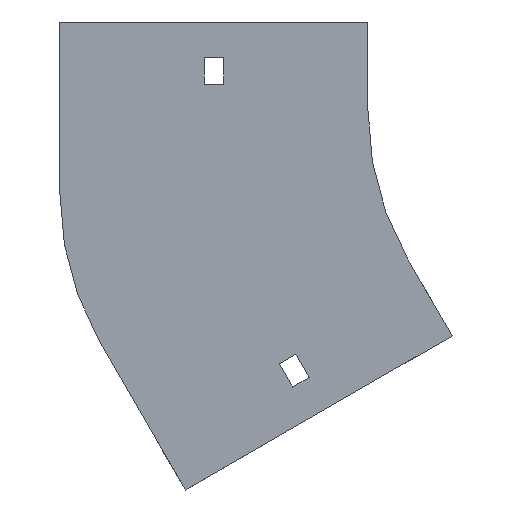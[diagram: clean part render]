
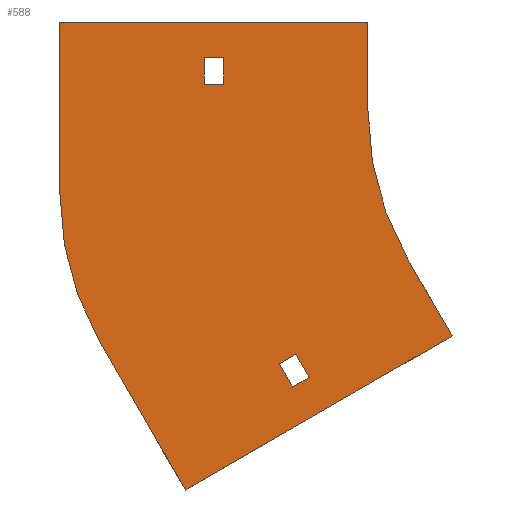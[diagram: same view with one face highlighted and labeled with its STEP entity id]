
A CAD part, front view. The second image highlights one B-rep face of the part: STEP entity #588.
In plain terms, the highlighted planar face has unit normal (0, -1, 0).
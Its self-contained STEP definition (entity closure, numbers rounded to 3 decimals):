
#7 = ORIENTED_EDGE ( 'NONE', *, *, #935, .F. ) ;
#13 = CARTESIAN_POINT ( 'NONE',  ( -71.603, 0., -75.981 ) ) ;
#17 = DIRECTION ( 'NONE',  ( 0.5, 0., -0.866 ) ) ;
#24 = LINE ( 'NONE', #1214, #549 ) ;
#43 = VECTOR ( 'NONE', #1126, 1000. ) ;
#48 = VERTEX_POINT ( 'NONE', #52 ) ;
#52 = CARTESIAN_POINT ( 'NONE',  ( -119.821, 0., -89.963 ) ) ;
#77 = DIRECTION ( 'NONE',  ( -0.5, 0., 0.866 ) ) ;
#81 = DIRECTION ( 'NONE',  ( -0.866, 0., -0.5 ) ) ;
#113 = PLANE ( 'NONE',  #397 ) ;
#126 = LINE ( 'NONE', #991, #472 ) ;
#138 = DIRECTION ( 'NONE',  ( 1., 0., 0. ) ) ;
#148 = CARTESIAN_POINT ( 'NONE',  ( -148.75, 0., 18. ) ) ;
#161 = DIRECTION ( 'NONE',  ( 0., 0., 1. ) ) ;
#171 = DIRECTION ( 'NONE',  ( 0., -1., 0. ) ) ;
#176 = DIRECTION ( 'NONE',  ( 0., 0., 1. ) ) ;
#185 = VERTEX_POINT ( 'NONE', #532 ) ;
#199 = EDGE_CURVE ( 'NONE', #449, #241, #200, .T. ) ;
#200 = LINE ( 'NONE', #641, #1122 ) ;
#211 = ORIENTED_EDGE ( 'NONE', *, *, #199, .F. ) ;
#212 = DIRECTION ( 'NONE',  ( -0.866, 0., -0.5 ) ) ;
#220 = AXIS2_PLACEMENT_3D ( 'NONE', #948, #747, #176 ) ;
#222 = VERTEX_POINT ( 'NONE', #863 ) ;
#241 = VERTEX_POINT ( 'NONE', #772 ) ;
#245 = CARTESIAN_POINT ( 'NONE',  ( -148.75, 0., 9. ) ) ;
#247 = VECTOR ( 'NONE', #212, 1000. ) ;
#248 = FACE_OUTER_BOUND ( 'NONE', #1011, .T. ) ;
#258 = LINE ( 'NONE', #264, #418 ) ;
#264 = CARTESIAN_POINT ( 'NONE',  ( -155.25, 0., 18. ) ) ;
#266 = EDGE_CURVE ( 'NONE', #799, #1180, #126, .T. ) ;
#271 = VERTEX_POINT ( 'NONE', #1084 ) ;
#285 = CARTESIAN_POINT ( 'NONE',  ( 0., 0., 0. ) ) ;
#292 = EDGE_CURVE ( 'NONE', #534, #222, #370, .T. ) ;
#297 = EDGE_CURVE ( 'NONE', #271, #640, #258, .T. ) ;
#314 = EDGE_CURVE ( 'NONE', #1180, #48, #1138, .T. ) ;
#321 = DIRECTION ( 'NONE',  ( -0.5, 0., 0.866 ) ) ;
#346 = DIRECTION ( 'NONE',  ( 0., 0., 1. ) ) ;
#358 = EDGE_CURVE ( 'NONE', #378, #271, #491, .T. ) ;
#360 = ORIENTED_EDGE ( 'NONE', *, *, #406, .F. ) ;
#370 = LINE ( 'NONE', #376, #828 ) ;
#373 = DIRECTION ( 'NONE',  ( 0., 0., -1. ) ) ;
#376 = CARTESIAN_POINT ( 'NONE',  ( -100., 0., 30. ) ) ;
#378 = VERTEX_POINT ( 'NONE', #610 ) ;
#385 = DIRECTION ( 'NONE',  ( -1., 0., 0. ) ) ;
#389 = CARTESIAN_POINT ( 'NONE',  ( -161.669, 0., -127.981 ) ) ;
#391 = EDGE_CURVE ( 'NONE', #546, #449, #1263, .T. ) ;
#397 = AXIS2_PLACEMENT_3D ( 'NONE', #1091, #1224, #1330 ) ;
#406 = EDGE_CURVE ( 'NONE', #241, #998, #1190, .T. ) ;
#407 = CARTESIAN_POINT ( 'NONE',  ( -71.603, 0., -75.981 ) ) ;
#418 = VECTOR ( 'NONE', #1231, 1000. ) ;
#427 = CARTESIAN_POINT ( 'NONE',  ( -129.95, 0., -85.419 ) ) ;
#449 = VERTEX_POINT ( 'NONE', #389 ) ;
#450 = ORIENTED_EDGE ( 'NONE', *, *, #358, .T. ) ;
#472 = VECTOR ( 'NONE', #17, 1000. ) ;
#485 = CARTESIAN_POINT ( 'NONE',  ( -155.25, 0., 9. ) ) ;
#491 = LINE ( 'NONE', #485, #1029 ) ;
#498 = EDGE_CURVE ( 'NONE', #1134, #799, #644, .T. ) ;
#532 = CARTESIAN_POINT ( 'NONE',  ( -148.75, 0., 9. ) ) ;
#534 = VERTEX_POINT ( 'NONE', #857 ) ;
#535 = CARTESIAN_POINT ( 'NONE',  ( -124.321, 0., -82.169 ) ) ;
#546 = VERTEX_POINT ( 'NONE', #13 ) ;
#549 = VECTOR ( 'NONE', #138, 1000. ) ;
#557 = ORIENTED_EDGE ( 'NONE', *, *, #292, .F. ) ;
#587 = AXIS2_PLACEMENT_3D ( 'NONE', #285, #171, #373 ) ;
#588 = ADVANCED_FACE ( 'NONE', ( #895, #248, #1336 ), #113, .T. ) ;
#595 = CARTESIAN_POINT ( 'NONE',  ( -155.25, 0., 9. ) ) ;
#610 = CARTESIAN_POINT ( 'NONE',  ( -155.25, 0., 9. ) ) ;
#621 = CARTESIAN_POINT ( 'NONE',  ( -125.45, 0., -93.213 ) ) ;
#640 = VERTEX_POINT ( 'NONE', #148 ) ;
#641 = CARTESIAN_POINT ( 'NONE',  ( -161.669, 0., -127.981 ) ) ;
#644 = LINE ( 'NONE', #427, #247 ) ;
#659 = CARTESIAN_POINT ( 'NONE',  ( -204., 0., 30. ) ) ;
#660 = EDGE_CURVE ( 'NONE', #222, #1154, #901, .T. ) ;
#679 = ORIENTED_EDGE ( 'NONE', *, *, #660, .F. ) ;
#689 = CARTESIAN_POINT ( 'NONE',  ( -125.45, 0., -93.213 ) ) ;
#693 = EDGE_LOOP ( 'NONE', ( #861, #1317, #753, #1123 ) ) ;
#712 = EDGE_CURVE ( 'NONE', #185, #378, #934, .T. ) ;
#747 = DIRECTION ( 'NONE',  ( 0., 1., 0. ) ) ;
#753 = ORIENTED_EDGE ( 'NONE', *, *, #498, .F. ) ;
#772 = CARTESIAN_POINT ( 'NONE',  ( -190.603, 0., -77.867 ) ) ;
#775 = VECTOR ( 'NONE', #346, 1000. ) ;
#799 = VERTEX_POINT ( 'NONE', #971 ) ;
#828 = VECTOR ( 'NONE', #1249, 1000. ) ;
#857 = CARTESIAN_POINT ( 'NONE',  ( -100., 0., 30. ) ) ;
#861 = ORIENTED_EDGE ( 'NONE', *, *, #314, .F. ) ;
#863 = CARTESIAN_POINT ( 'NONE',  ( -100., 0., 0. ) ) ;
#865 = LINE ( 'NONE', #1291, #927 ) ;
#873 = ORIENTED_EDGE ( 'NONE', *, *, #712, .T. ) ;
#888 = EDGE_CURVE ( 'NONE', #640, #185, #1278, .T. ) ;
#895 = FACE_BOUND ( 'NONE', #1097, .T. ) ;
#897 = EDGE_CURVE ( 'NONE', #1154, #546, #902, .T. ) ;
#901 = CIRCLE ( 'NONE', #587, 100. ) ;
#902 = LINE ( 'NONE', #1335, #950 ) ;
#927 = VECTOR ( 'NONE', #321, 1000. ) ;
#934 = LINE ( 'NONE', #595, #1262 ) ;
#935 = EDGE_CURVE ( 'NONE', #987, #534, #24, .T. ) ;
#948 = CARTESIAN_POINT ( 'NONE',  ( -104., 0., -27.867 ) ) ;
#950 = VECTOR ( 'NONE', #1222, 1000. ) ;
#971 = CARTESIAN_POINT ( 'NONE',  ( -129.95, 0., -85.419 ) ) ;
#972 = VECTOR ( 'NONE', #1327, 1000. ) ;
#985 = CARTESIAN_POINT ( 'NONE',  ( -204., 0., -27.867 ) ) ;
#987 = VERTEX_POINT ( 'NONE', #659 ) ;
#990 = EDGE_CURVE ( 'NONE', #998, #987, #1089, .T. ) ;
#991 = CARTESIAN_POINT ( 'NONE',  ( -129.95, 0., -85.419 ) ) ;
#998 = VERTEX_POINT ( 'NONE', #1206 ) ;
#1011 = EDGE_LOOP ( 'NONE', ( #7, #1337, #360, #211, #1295, #1395, #679, #557 ) ) ;
#1029 = VECTOR ( 'NONE', #161, 1000. ) ;
#1084 = CARTESIAN_POINT ( 'NONE',  ( -155.25, 0., 18. ) ) ;
#1089 = LINE ( 'NONE', #985, #775 ) ;
#1091 = CARTESIAN_POINT ( 'NONE',  ( 0., 0., 0. ) ) ;
#1097 = EDGE_LOOP ( 'NONE', ( #450, #1355, #1226, #873 ) ) ;
#1103 = VECTOR ( 'NONE', #81, 1000. ) ;
#1122 = VECTOR ( 'NONE', #77, 1000. ) ;
#1123 = ORIENTED_EDGE ( 'NONE', *, *, #1140, .F. ) ;
#1126 = DIRECTION ( 'NONE',  ( 0.866, 0., 0.5 ) ) ;
#1134 = VERTEX_POINT ( 'NONE', #535 ) ;
#1138 = LINE ( 'NONE', #689, #43 ) ;
#1140 = EDGE_CURVE ( 'NONE', #48, #1134, #865, .T. ) ;
#1154 = VERTEX_POINT ( 'NONE', #1285 ) ;
#1180 = VERTEX_POINT ( 'NONE', #621 ) ;
#1190 = CIRCLE ( 'NONE', #220, 100. ) ;
#1206 = CARTESIAN_POINT ( 'NONE',  ( -204., 0., -27.867 ) ) ;
#1214 = CARTESIAN_POINT ( 'NONE',  ( -204., 0., 30. ) ) ;
#1222 = DIRECTION ( 'NONE',  ( 0.5, 0., -0.866 ) ) ;
#1224 = DIRECTION ( 'NONE',  ( 0., -1., 0. ) ) ;
#1226 = ORIENTED_EDGE ( 'NONE', *, *, #888, .T. ) ;
#1231 = DIRECTION ( 'NONE',  ( 1., 0., 0. ) ) ;
#1249 = DIRECTION ( 'NONE',  ( 0., 0., -1. ) ) ;
#1262 = VECTOR ( 'NONE', #385, 1000. ) ;
#1263 = LINE ( 'NONE', #407, #1103 ) ;
#1278 = LINE ( 'NONE', #245, #972 ) ;
#1285 = CARTESIAN_POINT ( 'NONE',  ( -86.603, 0., -50. ) ) ;
#1291 = CARTESIAN_POINT ( 'NONE',  ( -124.321, 0., -82.169 ) ) ;
#1295 = ORIENTED_EDGE ( 'NONE', *, *, #391, .F. ) ;
#1317 = ORIENTED_EDGE ( 'NONE', *, *, #266, .F. ) ;
#1327 = DIRECTION ( 'NONE',  ( 0., 0., -1. ) ) ;
#1330 = DIRECTION ( 'NONE',  ( 0., 0., -1. ) ) ;
#1335 = CARTESIAN_POINT ( 'NONE',  ( -86.603, 0., -50. ) ) ;
#1336 = FACE_BOUND ( 'NONE', #693, .T. ) ;
#1337 = ORIENTED_EDGE ( 'NONE', *, *, #990, .F. ) ;
#1355 = ORIENTED_EDGE ( 'NONE', *, *, #297, .T. ) ;
#1395 = ORIENTED_EDGE ( 'NONE', *, *, #897, .F. ) ;
